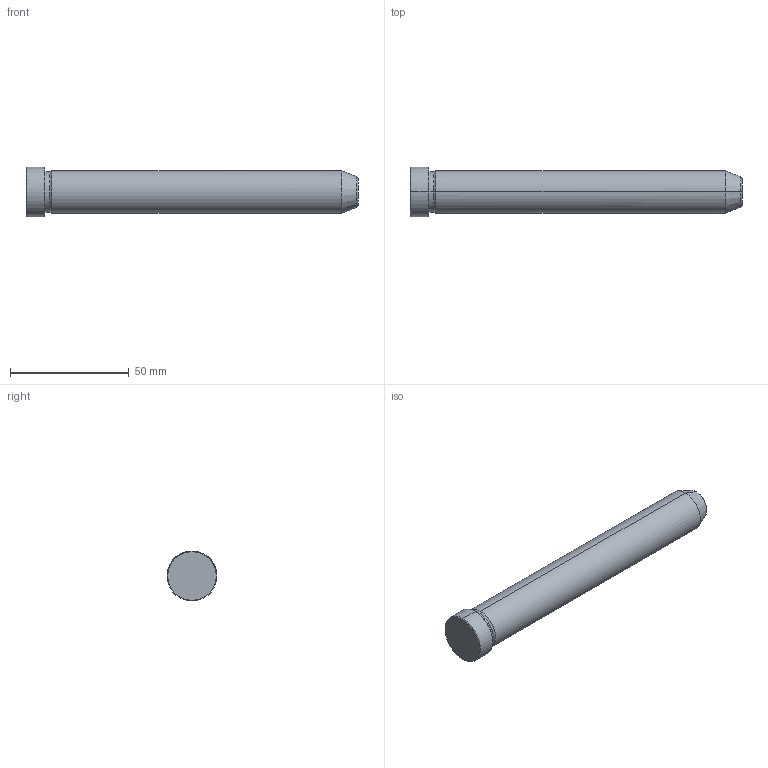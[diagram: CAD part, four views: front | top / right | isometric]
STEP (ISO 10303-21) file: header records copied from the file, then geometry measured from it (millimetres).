
FILE_DESCRIPTION(('CATIA V5 STEP Exchange'),'2;1');
FILE_NAME('C:\Users\Utente\Desktop\IO LAVORO\3D X SITO CF\X SITO\PLASTICA\549\549-18X140.stp','2021-12-11T09:41:16+00:00',('none'),('none'),'CATIA Version 5 Release 20 GA (IN-10)','CATIA V5 STEP AP203','none');
FILE_SCHEMA(('CONFIG_CONTROL_DESIGN'));
Length unit declared in the file: millimetre
Products named in the file (1): 549-18X140
Bounding box: 140 x 21 x 21 mm (x, y, z)
Volume: 35783.7 mm3; surface area: 8511.4 mm2
Topology: 1 solids, 1 shells, 19 faces, 56 edges, 40 vertices
Faces by surface type: cone 8, cylinder 6, plane 3, torus 2
Entity records: 736 total; most frequent: CARTESIAN_POINT 192, ORIENTED_EDGE 112, DIRECTION 86, EDGE_CURVE 56, AXIS2_PLACEMENT_3D 54, VERTEX_POINT 40, CIRCLE 34, EDGE_LOOP 20
